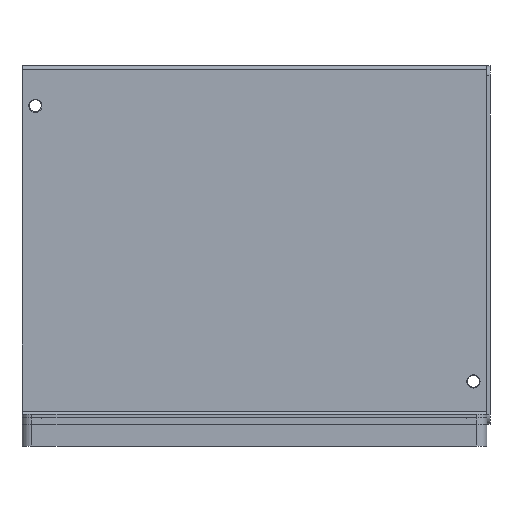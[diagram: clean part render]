
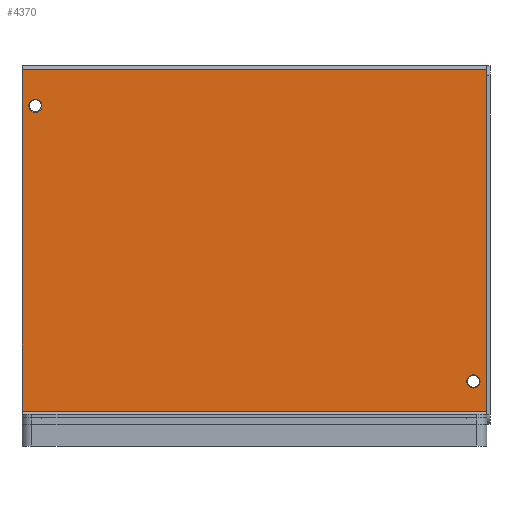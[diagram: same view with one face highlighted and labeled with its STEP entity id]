
A CAD part, left-side view. The second image highlights one B-rep face of the part: STEP entity #4370.
In plain terms, the highlighted planar face has unit normal (-1, 0, 0).
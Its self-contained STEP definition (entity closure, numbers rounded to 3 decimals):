
#10 = ORIENTED_EDGE ( 'NONE', *, *, #6987, .T. ) ;
#21 = ORIENTED_EDGE ( 'NONE', *, *, #7034, .T. ) ;
#23 = ORIENTED_EDGE ( 'NONE', *, *, #6942, .T. ) ;
#39 = ORIENTED_EDGE ( 'NONE', *, *, #7017, .F. ) ;
#61 = ORIENTED_EDGE ( 'NONE', *, *, #7022, .T. ) ;
#953 = ORIENTED_EDGE ( 'NONE', *, *, #6984, .T. ) ;
#958 = ORIENTED_EDGE ( 'NONE', *, *, #7033, .F. ) ;
#968 = ORIENTED_EDGE ( 'NONE', *, *, #6988, .T. ) ;
#1000 = EDGE_LOOP ( 'NONE', ( #21, #958, #968, #39 ) ) ;
#1084 = EDGE_LOOP ( 'NONE', ( #10, #23 ) ) ;
#1089 = EDGE_LOOP ( 'NONE', ( #953, #61 ) ) ;
#1295 = VERTEX_POINT ( 'NONE', #1776 ) ;
#1296 = VERTEX_POINT ( 'NONE', #1741 ) ;
#1312 = VERTEX_POINT ( 'NONE', #1726 ) ;
#1317 = VERTEX_POINT ( 'NONE', #1773 ) ;
#1321 = VERTEX_POINT ( 'NONE', #1771 ) ;
#1330 = VERTEX_POINT ( 'NONE', #1817 ) ;
#1332 = VERTEX_POINT ( 'NONE', #1803 ) ;
#1358 = VERTEX_POINT ( 'NONE', #1830 ) ;
#1726 = CARTESIAN_POINT ( 'NONE',  ( 15., -4., 104.5 ) ) ;
#1741 = CARTESIAN_POINT ( 'NONE',  ( 15., -140., 10.5 ) ) ;
#1771 = CARTESIAN_POINT ( 'NONE',  ( 15., 0., 113.5 ) ) ;
#1773 = CARTESIAN_POINT ( 'NONE',  ( 15., -136., 17.476 ) ) ;
#1776 = CARTESIAN_POINT ( 'NONE',  ( 15., -136., 21.476 ) ) ;
#1803 = CARTESIAN_POINT ( 'NONE',  ( 15., -4., 100.5 ) ) ;
#1817 = CARTESIAN_POINT ( 'NONE',  ( 15., -140., 113.5 ) ) ;
#1830 = CARTESIAN_POINT ( 'NONE',  ( 15., 0., 10.5 ) ) ;
#3586 = AXIS2_PLACEMENT_3D ( 'NONE', #7840, #7819, #7843 ) ;
#3633 = AXIS2_PLACEMENT_3D ( 'NONE', #7950, #7938, #7953 ) ;
#3661 = AXIS2_PLACEMENT_3D ( 'NONE', #8059, #8058, #8054 ) ;
#3664 = AXIS2_PLACEMENT_3D ( 'NONE', #7947, #7943, #7933 ) ;
#4186 = AXIS2_PLACEMENT_3D ( 'NONE', #6503, #6507, #6508 ) ;
#4370 = ADVANCED_FACE ( 'NONE', ( #5613, #5630, #5614 ), #6506, .T. ) ;
#4460 = CIRCLE ( 'NONE', #3586, 2. ) ;
#4476 = LINE ( 'NONE', #7964, #4510 ) ;
#4487 = CIRCLE ( 'NONE', #3664, 2. ) ;
#4499 = CIRCLE ( 'NONE', #3633, 2. ) ;
#4510 = VECTOR ( 'NONE', #7959, 1000. ) ;
#4545 = LINE ( 'NONE', #8012, #4579 ) ;
#4575 = CIRCLE ( 'NONE', #3661, 2. ) ;
#4579 = VECTOR ( 'NONE', #8013, 1000. ) ;
#4618 = LINE ( 'NONE', #8070, #4648 ) ;
#4634 = VECTOR ( 'NONE', #8071, 1000. ) ;
#4636 = LINE ( 'NONE', #8067, #4634 ) ;
#4648 = VECTOR ( 'NONE', #8075, 1000. ) ;
#5613 = FACE_OUTER_BOUND ( 'NONE', #1000, .T. ) ;
#5614 = FACE_BOUND ( 'NONE', #1084, .T. ) ;
#5630 = FACE_BOUND ( 'NONE', #1089, .T. ) ;
#6503 = CARTESIAN_POINT ( 'NONE',  ( 15., -140., 113.5 ) ) ;
#6506 = PLANE ( 'NONE',  #4186 ) ;
#6507 = DIRECTION ( 'NONE',  ( -1., 0., 0. ) ) ;
#6508 = DIRECTION ( 'NONE',  ( 0., 0., 1. ) ) ;
#6942 = EDGE_CURVE ( 'NONE', #1317, #1295, #4460, .T. ) ;
#6984 = EDGE_CURVE ( 'NONE', #1312, #1332, #4487, .T. ) ;
#6987 = EDGE_CURVE ( 'NONE', #1295, #1317, #4499, .T. ) ;
#6988 = EDGE_CURVE ( 'NONE', #1330, #1321, #4476, .T. ) ;
#7017 = EDGE_CURVE ( 'NONE', #1358, #1321, #4545, .T. ) ;
#7022 = EDGE_CURVE ( 'NONE', #1332, #1312, #4575, .T. ) ;
#7033 = EDGE_CURVE ( 'NONE', #1330, #1296, #4618, .T. ) ;
#7034 = EDGE_CURVE ( 'NONE', #1358, #1296, #4636, .T. ) ;
#7819 = DIRECTION ( 'NONE',  ( 1., 0., 0. ) ) ;
#7840 = CARTESIAN_POINT ( 'NONE',  ( 15., -136., 19.476 ) ) ;
#7843 = DIRECTION ( 'NONE',  ( 0., 0., 1. ) ) ;
#7933 = DIRECTION ( 'NONE',  ( 0., 0., 1. ) ) ;
#7938 = DIRECTION ( 'NONE',  ( 1., 0., 0. ) ) ;
#7943 = DIRECTION ( 'NONE',  ( 1., 0., 0. ) ) ;
#7947 = CARTESIAN_POINT ( 'NONE',  ( 15., -4., 102.5 ) ) ;
#7950 = CARTESIAN_POINT ( 'NONE',  ( 15., -136., 19.476 ) ) ;
#7953 = DIRECTION ( 'NONE',  ( 0., 0., 1. ) ) ;
#7959 = DIRECTION ( 'NONE',  ( 0., 1., 0. ) ) ;
#7964 = CARTESIAN_POINT ( 'NONE',  ( 15., -140., 113.5 ) ) ;
#8012 = CARTESIAN_POINT ( 'NONE',  ( 15., 0., 8.5 ) ) ;
#8013 = DIRECTION ( 'NONE',  ( 0., 0., 1. ) ) ;
#8054 = DIRECTION ( 'NONE',  ( 0., 0., 1. ) ) ;
#8058 = DIRECTION ( 'NONE',  ( 1., 0., 0. ) ) ;
#8059 = CARTESIAN_POINT ( 'NONE',  ( 15., -4., 102.5 ) ) ;
#8067 = CARTESIAN_POINT ( 'NONE',  ( 15., -140., 10.5 ) ) ;
#8070 = CARTESIAN_POINT ( 'NONE',  ( 15., -140., 8.5 ) ) ;
#8071 = DIRECTION ( 'NONE',  ( 0., -1., 0. ) ) ;
#8075 = DIRECTION ( 'NONE',  ( 0., 0., -1. ) ) ;
